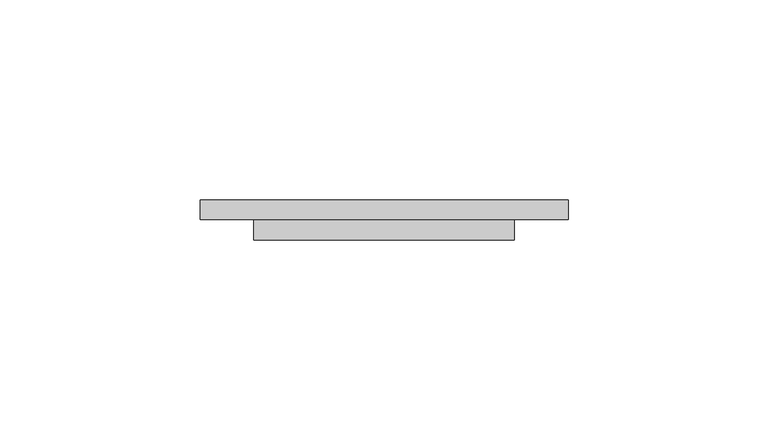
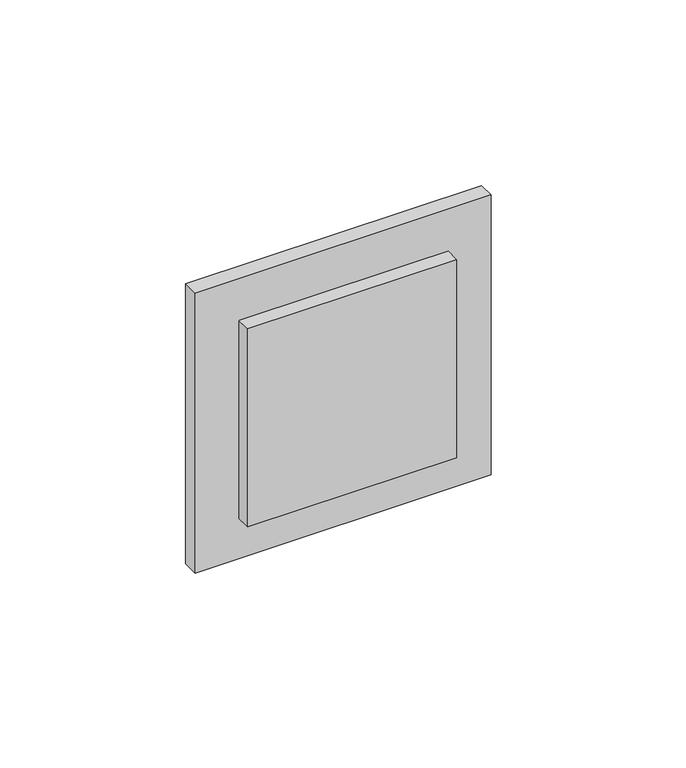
"""IFC4 building model written with IfcOpenShell, lengths in millimetres: proxy geometry, ZYR_06.01 Mecanismes : 01 Interruptor."""

from ifc_helpers import new_model, si_unit, frame, origin, place, context, project, spatial, polyline, outline, extrude, source, transform, mapped, element, save


def electrical_fixtures_2bf25e1e(model_context):
    return source(origin(), model_context, "Body", "SweptSolid", [
        extrude(outline(polyline([(46.0, -5.0), (-46.0, -5.0), (-46.0, 0.0), (46.0, 0.0), (46.0, -5.0)])), frame((0.0, 0.0, -46.0), z_axis=(0.0, 0.0, 1.0), x_axis=(1.0, 0.0, 0.0)), (0.0, 0.0, 1.0), 92.0),
        extrude(outline(polyline([(32.5019431, -10.0), (-32.5019431, -10.0), (-32.5019431, -5.0), (32.5019431, -5.0), (32.5019431, -10.0)])), frame((0.0, 0.0, -32.5019431), z_axis=(0.0, 0.0, 1.0), x_axis=(1.0, 0.0, 0.0)), (0.0, 0.0, 1.0), 65.0038861),
    ])


if __name__ == "__main__":
    model = new_model("IFC4")
    model_context = context("Model", 3, world=origin())
    ifc_project = project(units=[si_unit("LENGTHUNIT", "METRE", prefix="MILLI")], contexts=[model_context])
    site = spatial("IfcSite", under=ifc_project)
    building = spatial("IfcBuilding", under=site)
    placement = place(None, origin())
    electrical_fixtures_shape = electrical_fixtures_2bf25e1e(model_context)
    element("IfcBuildingElementProxy", 1, Name="ZYR_06.01 Mecanismes : 01 Interruptor", ObjectType="ZYR_06.01 Mecanismes : 01 Interruptor", at=placement, inside=building, context=model_context, shape_type="MappedRepresentation", body=[
        mapped(electrical_fixtures_shape, transform((0.0, 0.0, 0.0), x_axis=(1.0, 0.0, 0.0), y_axis=(0.0, 1.0, 0.0), z_axis=(0.0, 0.0, 1.0))),
    ])
    save(model, "model.ifc")
